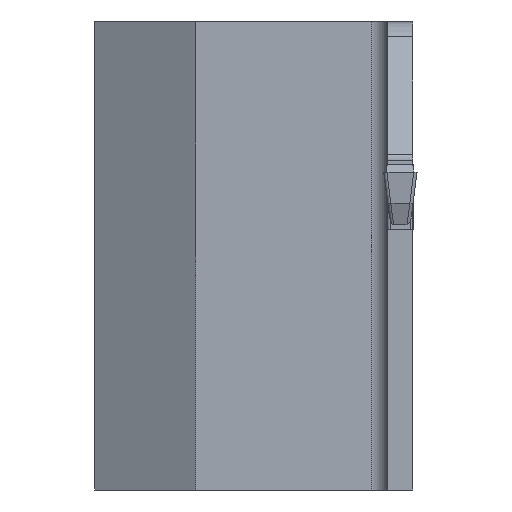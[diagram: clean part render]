
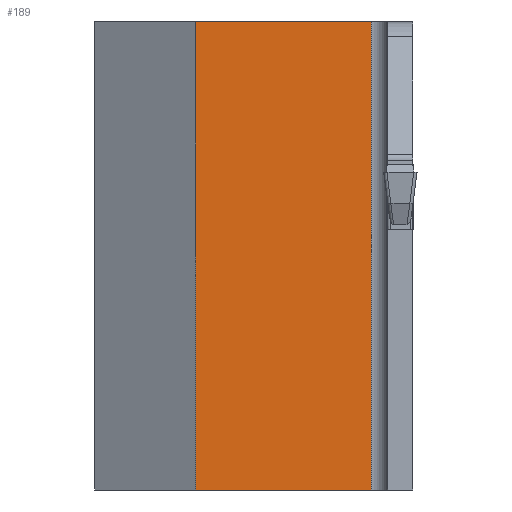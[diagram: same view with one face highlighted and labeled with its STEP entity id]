
A CAD part, left-side view. The second image highlights one B-rep face of the part: STEP entity #189.
In plain terms, the highlighted planar face has unit normal (-1, 0, 0).
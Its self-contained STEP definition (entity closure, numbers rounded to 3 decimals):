
#189=ADVANCED_FACE('',(#299),#239,.T.);
#239=PLANE('',#1299);
#299=FACE_OUTER_BOUND('',#363,.T.);
#363=EDGE_LOOP('',(#646,#647,#648,#649));
#646=ORIENTED_EDGE('',*,*,#961,.T.);
#647=ORIENTED_EDGE('',*,*,#962,.T.);
#648=ORIENTED_EDGE('',*,*,#933,.F.);
#649=ORIENTED_EDGE('',*,*,#960,.F.);
#793=VERTEX_POINT('',#1923);
#794=VERTEX_POINT('',#1925);
#816=VERTEX_POINT('',#1978);
#817=VERTEX_POINT('',#1982);
#933=EDGE_CURVE('',#793,#794,#1061,.T.);
#960=EDGE_CURVE('',#816,#793,#1083,.T.);
#961=EDGE_CURVE('',#816,#817,#1084,.T.);
#962=EDGE_CURVE('',#817,#794,#1085,.T.);
#1061=LINE('',#1924,#1181);
#1083=LINE('',#1979,#1203);
#1084=LINE('',#1981,#1204);
#1085=LINE('',#1983,#1205);
#1181=VECTOR('',#1526,1.);
#1203=VECTOR('',#1568,1.);
#1204=VECTOR('',#1571,1.);
#1205=VECTOR('',#1572,1.);
#1299=AXIS2_PLACEMENT_3D('',#1984,#1573,#1574);
#1526=DIRECTION('',(0.,-1.,0.));
#1568=DIRECTION('',(0.,0.,1.));
#1571=DIRECTION('',(0.,-1.,0.));
#1572=DIRECTION('',(0.,0.,1.));
#1573=DIRECTION('',(-1.,0.,0.));
#1574=DIRECTION('',(0.,0.,-1.));
#1923=CARTESIAN_POINT('',(15.5,12.25,9.));
#1924=CARTESIAN_POINT('',(15.5,12.25,9.));
#1925=CARTESIAN_POINT('',(15.5,1.75,9.));
#1978=CARTESIAN_POINT('',(15.5,12.25,-19.05));
#1979=CARTESIAN_POINT('',(15.5,12.25,-19.05));
#1981=CARTESIAN_POINT('',(15.5,12.25,-19.05));
#1982=CARTESIAN_POINT('',(15.5,1.75,-19.05));
#1983=CARTESIAN_POINT('',(15.5,1.75,9.));
#1984=CARTESIAN_POINT('',(15.5,12.25,-19.05));
